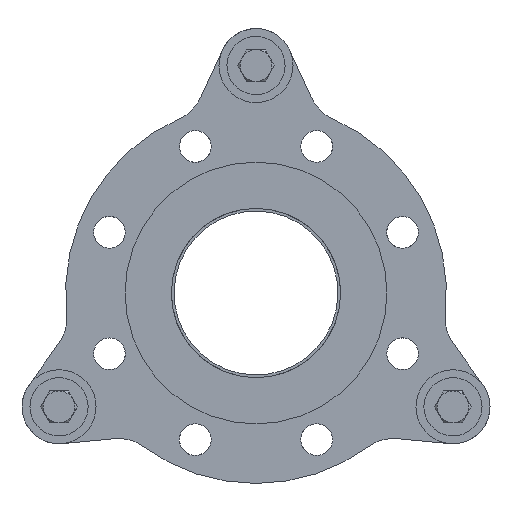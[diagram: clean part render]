
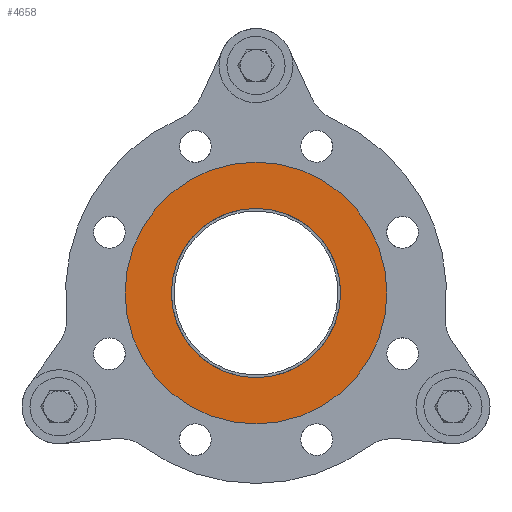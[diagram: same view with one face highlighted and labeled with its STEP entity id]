
A CAD part, front view. The second image highlights one B-rep face of the part: STEP entity #4658.
In plain terms, the highlighted planar face has unit normal (0, -1, 0).
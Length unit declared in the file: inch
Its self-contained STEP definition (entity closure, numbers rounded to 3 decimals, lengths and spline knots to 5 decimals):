
#487=PLANE('',#5089);
#667=FACE_BOUND('',#1296,.T.);
#911=FACE_OUTER_BOUND('',#1295,.T.);
#1295=EDGE_LOOP('',(#3254));
#1296=EDGE_LOOP('',(#3255));
#1854=CIRCLE('',#5085,2.);
#1855=CIRCLE('',#5087,3.09375);
#2189=VERTEX_POINT('',#7288);
#2190=VERTEX_POINT('',#7291);
#2626=EDGE_CURVE('',#2189,#2189,#1854,.T.);
#2627=EDGE_CURVE('',#2190,#2190,#1855,.T.);
#3254=ORIENTED_EDGE('',*,*,#2627,.T.);
#3255=ORIENTED_EDGE('',*,*,#2626,.T.);
#4658=ADVANCED_FACE('',(#911,#667),#487,.T.);
#5085=AXIS2_PLACEMENT_3D('',#7289,#5886,#5887);
#5087=AXIS2_PLACEMENT_3D('',#7292,#5890,#5891);
#5089=AXIS2_PLACEMENT_3D('',#7295,#5894,#5895);
#5886=DIRECTION('center_axis',(0.,1.,0.));
#5887=DIRECTION('ref_axis',(-1.,0.,0.));
#5890=DIRECTION('center_axis',(0.,-1.,0.));
#5891=DIRECTION('ref_axis',(1.,0.,0.));
#5894=DIRECTION('center_axis',(0.,-1.,0.));
#5895=DIRECTION('ref_axis',(0.,0.,
1.));
#7288=CARTESIAN_POINT('',(-2.,0.,0.));
#7289=CARTESIAN_POINT('Origin',(0.,0.,
0.));
#7291=CARTESIAN_POINT('',(-3.09375,0.,0.));
#7292=CARTESIAN_POINT('Origin',(0.,0.,
0.));
#7295=CARTESIAN_POINT('Origin',(0.,0.,
0.));
